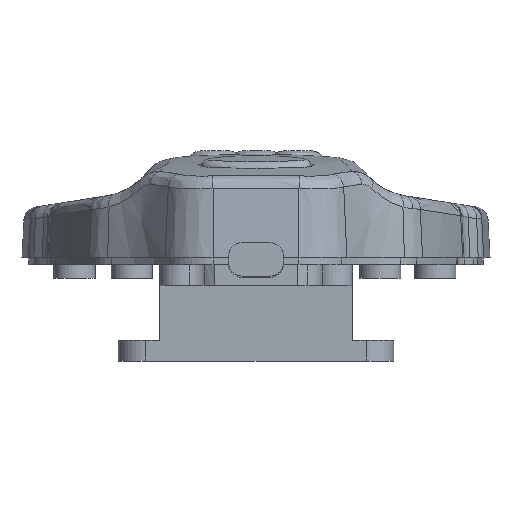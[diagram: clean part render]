
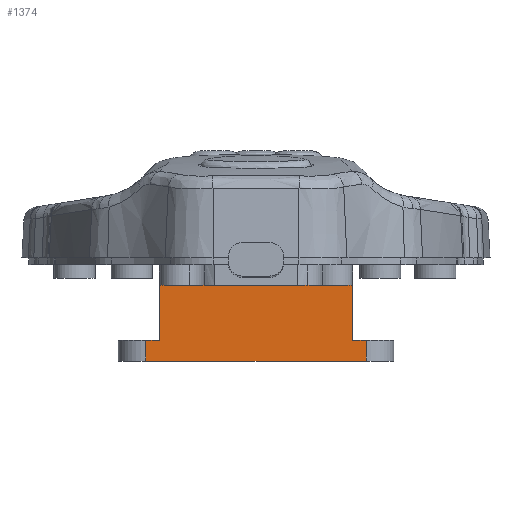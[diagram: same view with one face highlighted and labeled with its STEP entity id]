
A CAD part, front view. The second image highlights one B-rep face of the part: STEP entity #1374.
In plain terms, the highlighted planar face has unit normal (0, -1, 0).
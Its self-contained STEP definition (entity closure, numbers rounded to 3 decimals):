
#1374=ADVANCED_FACE('',(#1954),#1780,.F.);
#1780=PLANE('',#7866);
#1954=FACE_OUTER_BOUND('',#2380,.T.);
#2380=EDGE_LOOP('',(#3137,#3138,#3139,#3140,#3141,#3142,#3143,#3144,#3145,
#3146));
#3137=ORIENTED_EDGE('',*,*,#5885,.T.);
#3138=ORIENTED_EDGE('',*,*,#5886,.T.);
#3139=ORIENTED_EDGE('',*,*,#5887,.T.);
#3140=ORIENTED_EDGE('',*,*,#5882,.T.);
#3141=ORIENTED_EDGE('',*,*,#5888,.T.);
#3142=ORIENTED_EDGE('',*,*,#5889,.F.);
#3143=ORIENTED_EDGE('',*,*,#5890,.T.);
#3144=ORIENTED_EDGE('',*,*,#5870,.F.);
#3145=ORIENTED_EDGE('',*,*,#5891,.T.);
#3146=ORIENTED_EDGE('',*,*,#5892,.F.);
#5109=VERTEX_POINT('',#10886);
#5110=VERTEX_POINT('',#10888);
#5120=VERTEX_POINT('',#10912);
#5121=VERTEX_POINT('',#10913);
#5122=VERTEX_POINT('',#10918);
#5123=VERTEX_POINT('',#10919);
#5124=VERTEX_POINT('',#10921);
#5125=VERTEX_POINT('',#10924);
#5126=VERTEX_POINT('',#10926);
#5127=VERTEX_POINT('',#10929);
#5870=EDGE_CURVE('',#5109,#5110,#6884,.T.);
#5882=EDGE_CURVE('',#5120,#5121,#6895,.T.);
#5885=EDGE_CURVE('',#5122,#5123,#6898,.T.);
#5886=EDGE_CURVE('',#5123,#5124,#6899,.T.);
#5887=EDGE_CURVE('',#5124,#5120,#6900,.T.);
#5888=EDGE_CURVE('',#5121,#5125,#6901,.T.);
#5889=EDGE_CURVE('',#5126,#5125,#6902,.T.);
#5890=EDGE_CURVE('',#5126,#5110,#6903,.T.);
#5891=EDGE_CURVE('',#5109,#5127,#6904,.T.);
#5892=EDGE_CURVE('',#5122,#5127,#6905,.T.);
#6884=LINE('',#10887,#7334);
#6895=LINE('',#10911,#7345);
#6898=LINE('',#10917,#7348);
#6899=LINE('',#10920,#7349);
#6900=LINE('',#10922,#7350);
#6901=LINE('',#10923,#7351);
#6902=LINE('',#10925,#7352);
#6903=LINE('',#10927,#7353);
#6904=LINE('',#10928,#7354);
#6905=LINE('',#10930,#7355);
#7334=VECTOR('',#8849,1.);
#7345=VECTOR('',#8866,1.);
#7348=VECTOR('',#8871,1.);
#7349=VECTOR('',#8872,1.);
#7350=VECTOR('',#8873,1.);
#7351=VECTOR('',#8874,1.);
#7352=VECTOR('',#8875,1.);
#7353=VECTOR('',#8876,1.);
#7354=VECTOR('',#8877,1.);
#7355=VECTOR('',#8878,1.);
#7866=AXIS2_PLACEMENT_3D('',#10931,#8879,#8880);
#8849=DIRECTION('',(0.,0.,1.));
#8866=DIRECTION('',(0.,0.,1.));
#8871=DIRECTION('',(1.,0.,0.));
#8872=DIRECTION('',(0.,0.,1.));
#8873=DIRECTION('',(-1.,0.,0.));
#8874=DIRECTION('',(-0.707,0.,0.707));
#8875=DIRECTION('',(1.,0.,0.));
#8876=DIRECTION('',(-0.707,0.,-0.707));
#8877=DIRECTION('',(-1.,0.,0.));
#8878=DIRECTION('',(0.,0.,1.));
#8879=DIRECTION('',(0.,1.,0.));
#8880=DIRECTION('',(0.,0.,1.));
#10886=CARTESIAN_POINT('',(-14.,-11.,-11.));
#10887=CARTESIAN_POINT('',(-14.,-11.,14.));
#10888=CARTESIAN_POINT('',(-14.,-11.,11.));
#10911=CARTESIAN_POINT('',(14.,-11.,14.));
#10912=CARTESIAN_POINT('',(14.,-11.,-11.));
#10913=CARTESIAN_POINT('',(14.,-11.,11.));
#10917=CARTESIAN_POINT('',(14.,-11.,-14.));
#10918=CARTESIAN_POINT('',(-16.02,-11.,-14.));
#10919=CARTESIAN_POINT('',(16.02,-11.,-14.));
#10920=CARTESIAN_POINT('',(16.02,-11.,-11.));
#10921=CARTESIAN_POINT('',(16.02,-11.,-11.));
#10922=CARTESIAN_POINT('',(-16.02,-11.,-11.));
#10923=CARTESIAN_POINT('',(11.,-11.,14.));
#10924=CARTESIAN_POINT('',(11.,-11.,14.));
#10925=CARTESIAN_POINT('',(14.,-11.,14.));
#10926=CARTESIAN_POINT('',(-11.,-11.,14.));
#10927=CARTESIAN_POINT('',(-11.,-11.,14.));
#10928=CARTESIAN_POINT('',(-16.02,-11.,-11.));
#10929=CARTESIAN_POINT('',(-16.02,-11.,-11.));
#10930=CARTESIAN_POINT('',(-16.02,-11.,-11.));
#10931=CARTESIAN_POINT('',(14.,-11.,14.));
